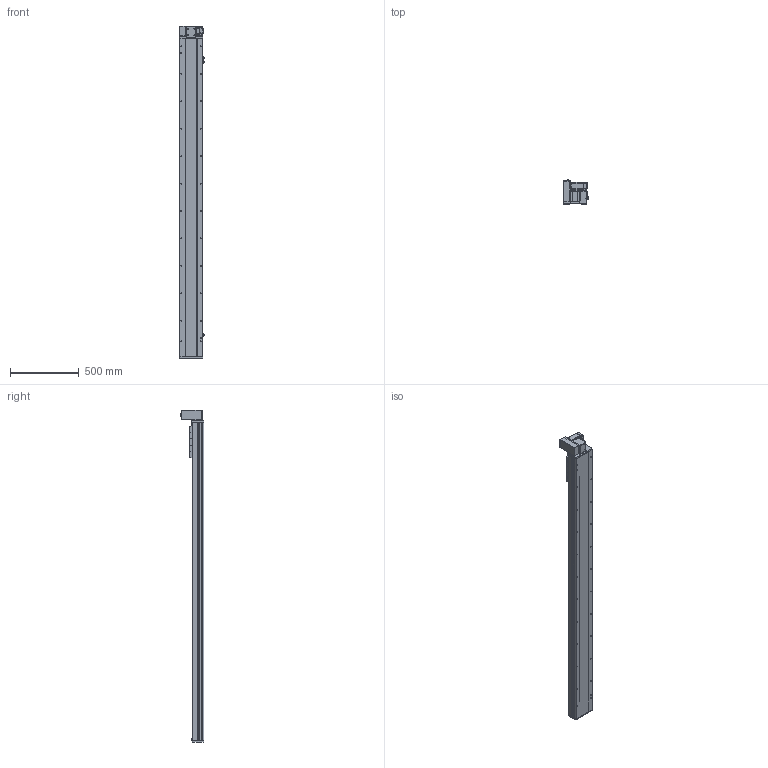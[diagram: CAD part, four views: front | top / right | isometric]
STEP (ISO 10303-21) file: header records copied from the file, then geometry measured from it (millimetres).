
FILE_DESCRIPTION (( 'STEP AP214' ), '1' );
FILE_NAME ('TPE17-L40-2000-LU-T40-C4.STEP', '2023-04-12T05:56:58', ( '' ), ( '' ), 'SwSTEP 2.0', 'SolidWorks 2020', '' );
FILE_SCHEMA (( 'AUTOMOTIVE_DESIGN' ));
Length unit declared in the file: millimetre
Products named in the file (12): 葩璃 TPE17-L-007 々湍釱MZ-169x88^TPE17-L40-LU-T40-C4_TPE17; 葩璃 pm-t65-672^TPE17-L40-LU-T40-C4; 葩璃 侂狟400W^TPE17-L40-LU-T40-C4; 葩璃 TPE17 賑雄殤^TPE17-L40-LU-T40-C4; hexagon socket head cap screws gb_GB_FASTENER_SCREWS_HSHCS M3X6-N; 葩璃 TPE17-L-001 菁釱MZ-170-01^TPE17-L40-LU-T40-C4; TPE17-L40-2000-LU-T40-C4; 葩璃 詩湍110^TPE17-L40-LU-T40-C4; 葩璃 TPE17-L-002 耜裔ZTMZ-135-04^TPE17-L40-LU-T40-C4; 葩璃 TPT14-L-009 萇儂啣^TPE17-L40-LU-T40-C4_400W; hex nuts, style 1-grades ab gb_GB_FASTENER_NUT_SNAB1 M3-N; hexagon head bolts-full thread gb_GB_FASTENER_BOLT_STBAB A M5X16-N
Assembly tree (24 placements, depth 2):
  TPE17-L40-2000-LU-T40-C4
    葩璃 TPE17-L-001 菁釱MZ-170-01^TPE17-L40-LU-T40-C4
    葩璃 TPE17-L-002 耜裔ZTMZ-135-04^TPE17-L40-LU-T40-C4  x2
    葩璃 詩湍110^TPE17-L40-LU-T40-C4
    葩璃 TPE17-L-007 々湍釱MZ-169x88^TPE17-L40-LU-T40-C4_TPE17
    葩璃 TPT14-L-009 萇儂啣^TPE17-L40-LU-T40-C4_400W
    葩璃 TPE17 賑雄殤^TPE17-L40-LU-T40-C4
    葩璃 pm-t65-672^TPE17-L40-LU-T40-C4  x3
    葩璃 侂狟400W^TPE17-L40-LU-T40-C4
    hexagon socket head cap screws gb_GB_FASTENER_SCREWS_HSHCS M3X6-N  x6
    hex nuts, style 1-grades ab gb_GB_FASTENER_NUT_SNAB1 M3-N  x6
    hexagon head bolts-full thread gb_GB_FASTENER_BOLT_STBAB A M5X16-N
Bounding box: 183.7 x 173.15 x 2419 mm (x, y, z)
Volume: 21376421.5 mm3; surface area: 2734965 mm2
Topology: 35 solids, 35 shells, 1738 faces, 4427 edges, 2778 vertices
Faces by surface type: plane 981, cylinder 485, cone 226, bspline 34, torus 12
Entity records: 41111 total; most frequent: CARTESIAN_POINT 7990, DIRECTION 6592, ORIENTED_EDGE 6342, EDGE_CURVE 3171, AXIS2_PLACEMENT_3D 2253, LINE 2086, VECTOR 2086, VERTEX_POINT 2041
